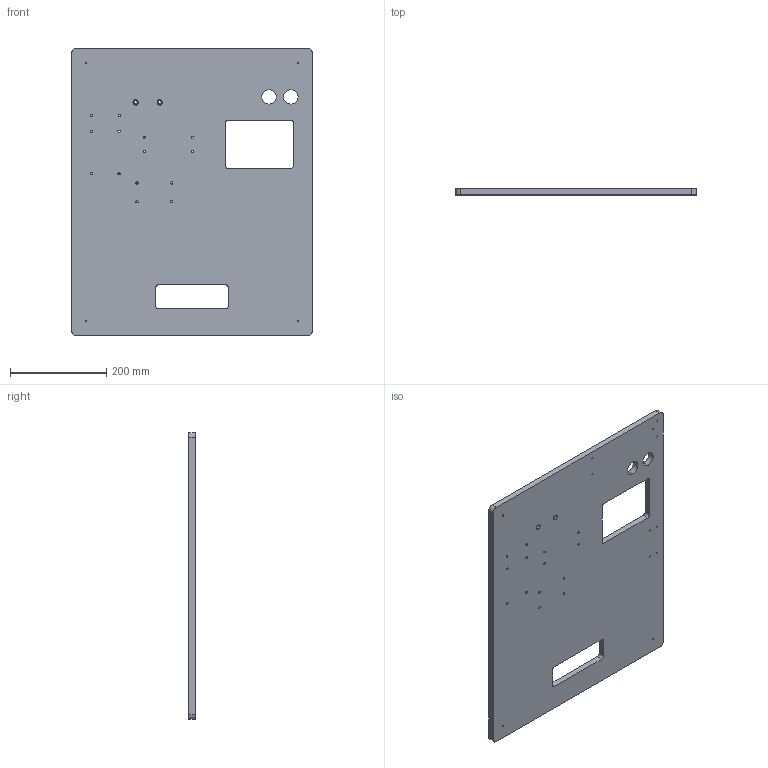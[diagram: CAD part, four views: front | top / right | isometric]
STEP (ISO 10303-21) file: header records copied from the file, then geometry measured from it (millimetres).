
FILE_DESCRIPTION (( 'STEP AP214' ), '1' );
FILE_NAME ('GZ21.01_V1底板.STEP', '2021-02-26T01:10:24', ( '微软中国' ), ( 'Microsoft' ), 'SwSTEP 2.0', 'SolidWorks 2017', '' );
FILE_SCHEMA (( 'AUTOMOTIVE_DESIGN' ));
Length unit declared in the file: millimetre
Products named in the file (1): GZ21.01_V1菁啣
Bounding box: 500 x 13 x 595 mm (x, y, z)
Volume: 3562665 mm3; surface area: 595626.4 mm2
Topology: 1 solids, 1 shells, 132 faces, 352 edges, 208 vertices
Faces by surface type: cylinder 84, cone 32, plane 16
Entity records: 4698 total; most frequent: DIRECTION 754, CARTESIAN_POINT 661, ORIENTED_EDGE 640, EDGE_CURVE 320, AXIS2_PLACEMENT_3D 301, VERTEX_POINT 208, EDGE_LOOP 190, CIRCLE 168
